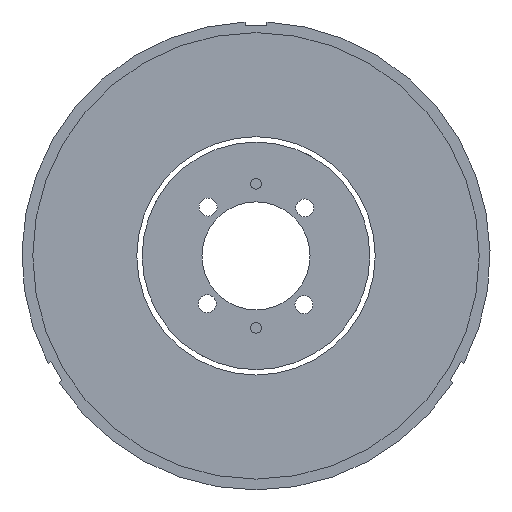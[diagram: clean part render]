
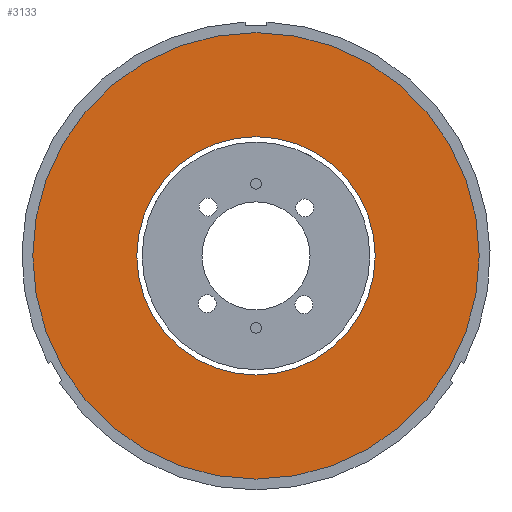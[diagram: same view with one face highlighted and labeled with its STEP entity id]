
A CAD part, front view. The second image highlights one B-rep face of the part: STEP entity #3133.
In plain terms, the highlighted planar face has unit normal (0, -1, 0).
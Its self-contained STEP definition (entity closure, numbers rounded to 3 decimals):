
#148 = ORIENTED_EDGE ( 'NONE', *, *, #575, .T. ) ;
#273 = AXIS2_PLACEMENT_3D ( 'NONE', #2155, #3084, #2220 ) ;
#469 = FACE_BOUND ( 'NONE', #1051, .T. ) ;
#502 = CARTESIAN_POINT ( 'NONE',  ( 8.536, 3.413, 25.031 ) ) ;
#532 = AXIS2_PLACEMENT_3D ( 'NONE', #1875, #1602, #2476 ) ;
#575 = EDGE_CURVE ( 'NONE', #3159, #1207, #2205, .T. ) ;
#806 = CARTESIAN_POINT ( 'NONE',  ( 8.536, 3.413, 8.481 ) ) ;
#946 = VERTEX_POINT ( 'NONE', #2356 ) ;
#1047 = CARTESIAN_POINT ( 'NONE',  ( 8.536, 3.413, 25.031 ) ) ;
#1051 = EDGE_LOOP ( 'NONE', ( #2939, #148 ) ) ;
#1078 = AXIS2_PLACEMENT_3D ( 'NONE', #1260, #1877, #3617 ) ;
#1207 = VERTEX_POINT ( 'NONE', #806 ) ;
#1260 = CARTESIAN_POINT ( 'NONE',  ( 8.536, 3.413, 25.031 ) ) ;
#1602 = DIRECTION ( 'NONE',  ( 0., 1., 0. ) ) ;
#1720 = EDGE_CURVE ( 'NONE', #2770, #946, #3626, .T. ) ;
#1875 = CARTESIAN_POINT ( 'NONE',  ( 8.536, 3.413, 25.031 ) ) ;
#1877 = DIRECTION ( 'NONE',  ( 0., 1., 0. ) ) ;
#1966 = ORIENTED_EDGE ( 'NONE', *, *, #2569, .F. ) ;
#2057 = EDGE_LOOP ( 'NONE', ( #3031, #1966 ) ) ;
#2155 = CARTESIAN_POINT ( 'NONE',  ( 8.536, 3.413, 25.031 ) ) ;
#2174 = CIRCLE ( 'NONE', #3041, 31. ) ;
#2205 = CIRCLE ( 'NONE', #532, 16.55 ) ;
#2220 = DIRECTION ( 'NONE',  ( 0., 0., 1. ) ) ;
#2306 = DIRECTION ( 'NONE',  ( 0., 1., 0. ) ) ;
#2356 = CARTESIAN_POINT ( 'NONE',  ( 8.536, 3.413, 56.031 ) ) ;
#2476 = DIRECTION ( 'NONE',  ( 0., 0., 1. ) ) ;
#2569 = EDGE_CURVE ( 'NONE', #946, #2770, #2174, .T. ) ;
#2770 = VERTEX_POINT ( 'NONE', #3374 ) ;
#2818 = CIRCLE ( 'NONE', #273, 16.55 ) ;
#2840 = DIRECTION ( 'NONE',  ( 0., 1., 0. ) ) ;
#2939 = ORIENTED_EDGE ( 'NONE', *, *, #3812, .T. ) ;
#3031 = ORIENTED_EDGE ( 'NONE', *, *, #1720, .F. ) ;
#3041 = AXIS2_PLACEMENT_3D ( 'NONE', #502, #2306, #3723 ) ;
#3084 = DIRECTION ( 'NONE',  ( 0., 1., 0. ) ) ;
#3133 = ADVANCED_FACE ( 'NONE', ( #3660, #469 ), #3713, .F. ) ;
#3159 = VERTEX_POINT ( 'NONE', #3381 ) ;
#3374 = CARTESIAN_POINT ( 'NONE',  ( 8.536, 3.413, -5.969 ) ) ;
#3381 = CARTESIAN_POINT ( 'NONE',  ( 8.536, 3.413, 41.581 ) ) ;
#3397 = DIRECTION ( 'NONE',  ( 0., 0., 1. ) ) ;
#3617 = DIRECTION ( 'NONE',  ( 0., 0., 1. ) ) ;
#3626 = CIRCLE ( 'NONE', #1078, 31. ) ;
#3660 = FACE_OUTER_BOUND ( 'NONE', #2057, .T. ) ;
#3713 = PLANE ( 'NONE',  #3834 ) ;
#3723 = DIRECTION ( 'NONE',  ( 0., 0., 1. ) ) ;
#3812 = EDGE_CURVE ( 'NONE', #1207, #3159, #2818, .T. ) ;
#3834 = AXIS2_PLACEMENT_3D ( 'NONE', #1047, #2840, #3397 ) ;
